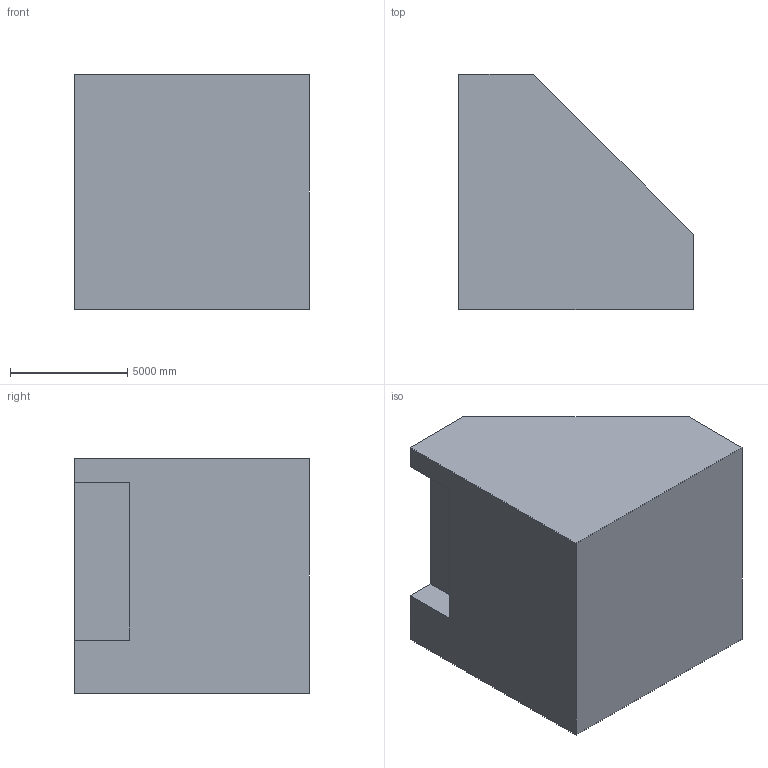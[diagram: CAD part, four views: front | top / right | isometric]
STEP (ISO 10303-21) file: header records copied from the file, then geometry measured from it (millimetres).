
FILE_DESCRIPTION (( 'STEP AP203' ), '1' );
FILE_NAME ('1009.STEP', '2022-08-18T12:24:25', ( 'user' ), ( '' ), 'SwSTEP 2.0', 'SolidWorks 2021', '' );
FILE_SCHEMA (( 'CONFIG_CONTROL_DESIGN' ));
Length unit declared in the file: centimetre
Products named in the file (1): 1009
Bounding box: 10000 x 10000 x 10000 mm (x, y, z)
Volume: 748651959318.6 mm3; surface area: 519588192.1 mm2
Topology: 1 solids, 1 shells, 11 faces, 27 edges, 18 vertices
Faces by surface type: plane 11
Entity records: 398 total; most frequent: CARTESIAN_POINT 57, ORIENTED_EDGE 54, DIRECTION 51, VECTOR 27, LINE 27, EDGE_CURVE 27, VERTEX_POINT 18, AXIS2_PLACEMENT_3D 12
